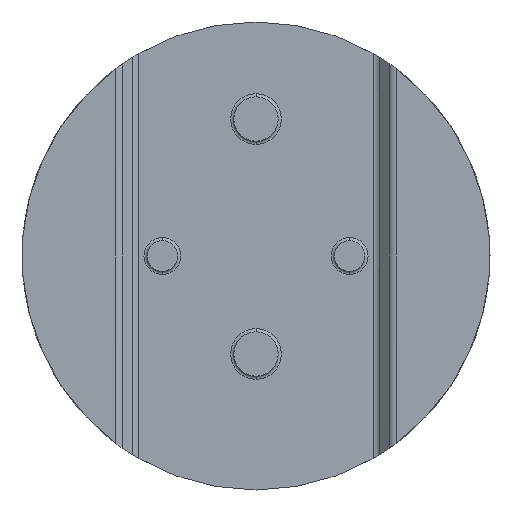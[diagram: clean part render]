
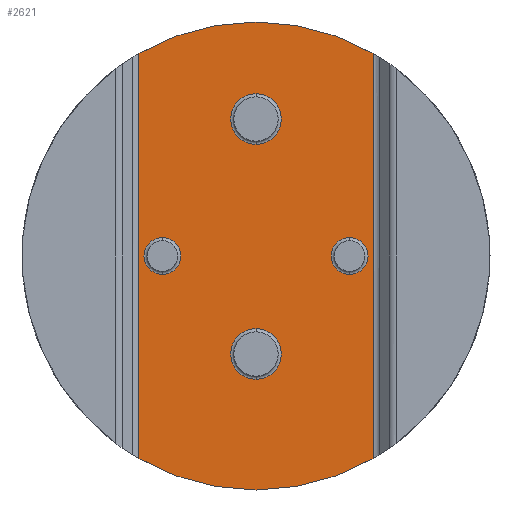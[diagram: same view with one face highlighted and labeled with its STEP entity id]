
A CAD part, front view. The second image highlights one B-rep face of the part: STEP entity #2621.
In plain terms, the highlighted planar face has unit normal (0, -1, 0).
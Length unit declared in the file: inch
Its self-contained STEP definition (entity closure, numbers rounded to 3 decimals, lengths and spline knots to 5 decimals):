
#40 = LINE ( 'NONE', #960, #4610 ) ;
#108 = DIRECTION ( 'NONE',  ( 0., 0., 1. ) ) ;
#184 = DIRECTION ( 'NONE',  ( 0., 1., 0. ) ) ;
#209 = EDGE_LOOP ( 'NONE', ( #1670, #9490 ) ) ;
#313 = CARTESIAN_POINT ( 'NONE',  ( 0.37507, -0.201, 0.64948 ) ) ;
#421 = DIRECTION ( 'NONE',  ( 0., 0., 1. ) ) ;
#424 = CARTESIAN_POINT ( 'NONE',  ( 0.3, -0.201, 0. ) ) ;
#475 = DIRECTION ( 'NONE',  ( 0., 1., 0. ) ) ;
#487 = CIRCLE ( 'NONE', #3592, 0.081 ) ;
#503 = CARTESIAN_POINT ( 'NONE',  ( 0.3, -0.201, -0.059 ) ) ;
#549 = CIRCLE ( 'NONE', #707, 0.75 ) ;
#562 = EDGE_LOOP ( 'NONE', ( #6116, #6582, #4752, #1434, #5289, #8749 ) ) ;
#659 = EDGE_CURVE ( 'NONE', #4167, #4162, #487, .T. ) ;
#707 = AXIS2_PLACEMENT_3D ( 'NONE', #5989, #6041, #758 ) ;
#723 = AXIS2_PLACEMENT_3D ( 'NONE', #7758, #7037, #4050 ) ;
#758 = DIRECTION ( 'NONE',  ( 0., 0., 1. ) ) ;
#796 = AXIS2_PLACEMENT_3D ( 'NONE', #2351, #6749, #108 ) ;
#907 = CARTESIAN_POINT ( 'NONE',  ( 0., -0.201, 0.52 ) ) ;
#953 = CIRCLE ( 'NONE', #796, 0.059 ) ;
#960 = CARTESIAN_POINT ( 'NONE',  ( 0.37507, -0.201, 0.64214 ) ) ;
#966 = CIRCLE ( 'NONE', #8506, 0.081 ) ;
#990 = VERTEX_POINT ( 'NONE', #8845 ) ;
#1071 = FACE_BOUND ( 'NONE', #5941, .T. ) ;
#1080 = EDGE_CURVE ( 'NONE', #4162, #4167, #5782, .T. ) ;
#1434 = ORIENTED_EDGE ( 'NONE', *, *, #4414, .F. ) ;
#1436 = DIRECTION ( 'NONE',  ( 0., 0., -1. ) ) ;
#1459 = AXIS2_PLACEMENT_3D ( 'NONE', #3378, #6276, #2601 ) ;
#1626 = EDGE_CURVE ( 'NONE', #3403, #9394, #953, .T. ) ;
#1655 = DIRECTION ( 'NONE',  ( 0., 0., 1. ) ) ;
#1670 = ORIENTED_EDGE ( 'NONE', *, *, #1080, .T. ) ;
#1774 = PLANE ( 'NONE',  #723 ) ;
#1823 = CARTESIAN_POINT ( 'NONE',  ( 0.3, -0.201, 0.059 ) ) ;
#1866 = FACE_BOUND ( 'NONE', #209, .T. ) ;
#1907 = VECTOR ( 'NONE', #1436, 39.37008 ) ;
#1936 = CIRCLE ( 'NONE', #9089, 0.75 ) ;
#2038 = CARTESIAN_POINT ( 'NONE',  ( -0.3, -0.201, -0.059 ) ) ;
#2351 = CARTESIAN_POINT ( 'NONE',  ( -0.3, -0.201, 0. ) ) ;
#2354 = VERTEX_POINT ( 'NONE', #313 ) ;
#2419 = ORIENTED_EDGE ( 'NONE', *, *, #7603, .T. ) ;
#2499 = VERTEX_POINT ( 'NONE', #6122 ) ;
#2570 = DIRECTION ( 'NONE',  ( 0., 0., 1. ) ) ;
#2601 = DIRECTION ( 'NONE',  ( 0., 0., 1. ) ) ;
#2621 = ADVANCED_FACE ( 'NONE', ( #1071, #9315, #1866, #8533, #4788 ), #1774, .F. ) ;
#2669 = DIRECTION ( 'NONE',  ( 0., 0., 1. ) ) ;
#2899 = LINE ( 'NONE', #5885, #1907 ) ;
#2931 = CIRCLE ( 'NONE', #4027, 0.059 ) ;
#2949 = CARTESIAN_POINT ( 'NONE',  ( 0., -0.201, -0.314 ) ) ;
#2996 = DIRECTION ( 'NONE',  ( 0., 1., 0. ) ) ;
#3059 = AXIS2_PLACEMENT_3D ( 'NONE', #4408, #5930, #8889 ) ;
#3158 = DIRECTION ( 'NONE',  ( 0., 0., 1. ) ) ;
#3278 = EDGE_CURVE ( 'NONE', #8357, #8748, #4924, .T. ) ;
#3293 = EDGE_CURVE ( 'NONE', #9394, #3403, #6182, .T. ) ;
#3334 = ORIENTED_EDGE ( 'NONE', *, *, #1626, .T. ) ;
#3378 = CARTESIAN_POINT ( 'NONE',  ( 0., -0.201, 0. ) ) ;
#3403 = VERTEX_POINT ( 'NONE', #2038 ) ;
#3443 = AXIS2_PLACEMENT_3D ( 'NONE', #2949, #7300, #7980 ) ;
#3456 = CARTESIAN_POINT ( 'NONE',  ( 0., -0.201, -0.314 ) ) ;
#3474 = VERTEX_POINT ( 'NONE', #5202 ) ;
#3507 = AXIS2_PLACEMENT_3D ( 'NONE', #424, #475, #2669 ) ;
#3522 = EDGE_CURVE ( 'NONE', #990, #2354, #549, .T. ) ;
#3592 = AXIS2_PLACEMENT_3D ( 'NONE', #3456, #4239, #6352 ) ;
#3625 = EDGE_LOOP ( 'NONE', ( #4796, #3334 ) ) ;
#3682 = CARTESIAN_POINT ( 'NONE',  ( -0.3, -0.201, 0.059 ) ) ;
#3696 = DIRECTION ( 'NONE',  ( 0., 0., 1. ) ) ;
#3775 = DIRECTION ( 'NONE',  ( 0., 0., 1. ) ) ;
#3818 = AXIS2_PLACEMENT_3D ( 'NONE', #8562, #5546, #2570 ) ;
#4027 = AXIS2_PLACEMENT_3D ( 'NONE', #6923, #184, #1655 ) ;
#4050 = DIRECTION ( 'NONE',  ( 0., 0., 1. ) ) ;
#4121 = VERTEX_POINT ( 'NONE', #5464 ) ;
#4127 = CARTESIAN_POINT ( 'NONE',  ( 0., -0.201, 0. ) ) ;
#4162 = VERTEX_POINT ( 'NONE', #6115 ) ;
#4167 = VERTEX_POINT ( 'NONE', #9067 ) ;
#4239 = DIRECTION ( 'NONE',  ( 0., 1., 0. ) ) ;
#4408 = CARTESIAN_POINT ( 'NONE',  ( 0., -0.201, 0.439 ) ) ;
#4414 = EDGE_CURVE ( 'NONE', #7673, #990, #9117, .T. ) ;
#4610 = VECTOR ( 'NONE', #3158, 39.37008 ) ;
#4663 = EDGE_CURVE ( 'NONE', #3474, #2354, #40, .T. ) ;
#4752 = ORIENTED_EDGE ( 'NONE', *, *, #3522, .F. ) ;
#4788 = FACE_OUTER_BOUND ( 'NONE', #562, .T. ) ;
#4796 = ORIENTED_EDGE ( 'NONE', *, *, #3293, .T. ) ;
#4865 = ORIENTED_EDGE ( 'NONE', *, *, #5978, .T. ) ;
#4924 = CIRCLE ( 'NONE', #3507, 0.059 ) ;
#4932 = AXIS2_PLACEMENT_3D ( 'NONE', #5217, #6055, #3696 ) ;
#5044 = CARTESIAN_POINT ( 'NONE',  ( 0., -0.201, 0.358 ) ) ;
#5202 = CARTESIAN_POINT ( 'NONE',  ( 0.37507, -0.201, -0.64948 ) ) ;
#5217 = CARTESIAN_POINT ( 'NONE',  ( 0., -0.201, 0. ) ) ;
#5289 = ORIENTED_EDGE ( 'NONE', *, *, #5751, .T. ) ;
#5464 = CARTESIAN_POINT ( 'NONE',  ( 0., -0.201, -0.75 ) ) ;
#5546 = DIRECTION ( 'NONE',  ( 0., 1., 0. ) ) ;
#5552 = CIRCLE ( 'NONE', #3059, 0.081 ) ;
#5751 = EDGE_CURVE ( 'NONE', #7673, #2499, #2899, .T. ) ;
#5771 = EDGE_LOOP ( 'NONE', ( #4865, #5884 ) ) ;
#5782 = CIRCLE ( 'NONE', #3443, 0.081 ) ;
#5855 = EDGE_CURVE ( 'NONE', #8850, #6882, #966, .T. ) ;
#5884 = ORIENTED_EDGE ( 'NONE', *, *, #5855, .T. ) ;
#5885 = CARTESIAN_POINT ( 'NONE',  ( -0.37507, -0.201, -0.64214 ) ) ;
#5930 = DIRECTION ( 'NONE',  ( 0., 1., 0. ) ) ;
#5941 = EDGE_LOOP ( 'NONE', ( #8992, #2419 ) ) ;
#5978 = EDGE_CURVE ( 'NONE', #6882, #8850, #5552, .T. ) ;
#5989 = CARTESIAN_POINT ( 'NONE',  ( 0., -0.201, 0. ) ) ;
#6041 = DIRECTION ( 'NONE',  ( 0., 1., 0. ) ) ;
#6055 = DIRECTION ( 'NONE',  ( 0., 1., 0. ) ) ;
#6115 = CARTESIAN_POINT ( 'NONE',  ( 0., -0.201, -0.233 ) ) ;
#6116 = ORIENTED_EDGE ( 'NONE', *, *, #9247, .F. ) ;
#6122 = CARTESIAN_POINT ( 'NONE',  ( -0.37507, -0.201, -0.64948 ) ) ;
#6182 = CIRCLE ( 'NONE', #3818, 0.059 ) ;
#6276 = DIRECTION ( 'NONE',  ( 0., 1., 0. ) ) ;
#6352 = DIRECTION ( 'NONE',  ( 0., 0., 1. ) ) ;
#6582 = ORIENTED_EDGE ( 'NONE', *, *, #4663, .T. ) ;
#6749 = DIRECTION ( 'NONE',  ( 0., 1., 0. ) ) ;
#6882 = VERTEX_POINT ( 'NONE', #907 ) ;
#6923 = CARTESIAN_POINT ( 'NONE',  ( 0.3, -0.201, 0. ) ) ;
#7037 = DIRECTION ( 'NONE',  ( 0., 1., 0. ) ) ;
#7112 = DIRECTION ( 'NONE',  ( 0., 1., 0. ) ) ;
#7300 = DIRECTION ( 'NONE',  ( 0., 1., 0. ) ) ;
#7603 = EDGE_CURVE ( 'NONE', #8748, #8357, #2931, .T. ) ;
#7673 = VERTEX_POINT ( 'NONE', #9052 ) ;
#7755 = CARTESIAN_POINT ( 'NONE',  ( 0., -0.201, 0.439 ) ) ;
#7758 = CARTESIAN_POINT ( 'NONE',  ( -0.3875, -0.201, -0.75 ) ) ;
#7980 = DIRECTION ( 'NONE',  ( 0., 0., 1. ) ) ;
#8357 = VERTEX_POINT ( 'NONE', #1823 ) ;
#8506 = AXIS2_PLACEMENT_3D ( 'NONE', #7755, #2996, #3775 ) ;
#8533 = FACE_BOUND ( 'NONE', #5771, .T. ) ;
#8562 = CARTESIAN_POINT ( 'NONE',  ( -0.3, -0.201, 0. ) ) ;
#8748 = VERTEX_POINT ( 'NONE', #503 ) ;
#8749 = ORIENTED_EDGE ( 'NONE', *, *, #8826, .F. ) ;
#8775 = CIRCLE ( 'NONE', #1459, 0.75 ) ;
#8826 = EDGE_CURVE ( 'NONE', #4121, #2499, #8775, .T. ) ;
#8845 = CARTESIAN_POINT ( 'NONE',  ( 0., -0.201, 0.75 ) ) ;
#8850 = VERTEX_POINT ( 'NONE', #5044 ) ;
#8889 = DIRECTION ( 'NONE',  ( 0., 0., 1. ) ) ;
#8992 = ORIENTED_EDGE ( 'NONE', *, *, #3278, .T. ) ;
#9052 = CARTESIAN_POINT ( 'NONE',  ( -0.37507, -0.201, 0.64948 ) ) ;
#9067 = CARTESIAN_POINT ( 'NONE',  ( 0., -0.201, -0.395 ) ) ;
#9089 = AXIS2_PLACEMENT_3D ( 'NONE', #4127, #7112, #421 ) ;
#9117 = CIRCLE ( 'NONE', #4932, 0.75 ) ;
#9247 = EDGE_CURVE ( 'NONE', #3474, #4121, #1936, .T. ) ;
#9315 = FACE_BOUND ( 'NONE', #3625, .T. ) ;
#9394 = VERTEX_POINT ( 'NONE', #3682 ) ;
#9490 = ORIENTED_EDGE ( 'NONE', *, *, #659, .T. ) ;
